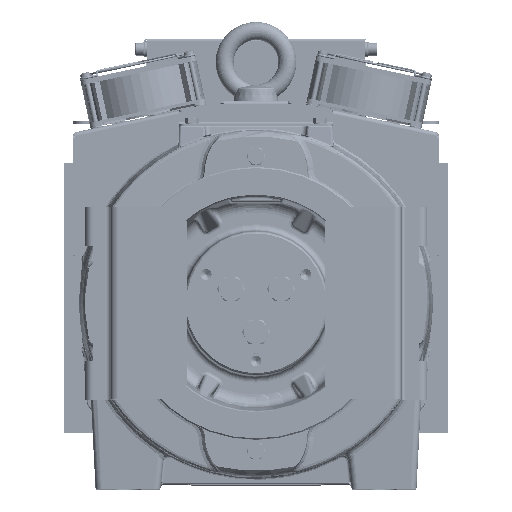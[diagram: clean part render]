
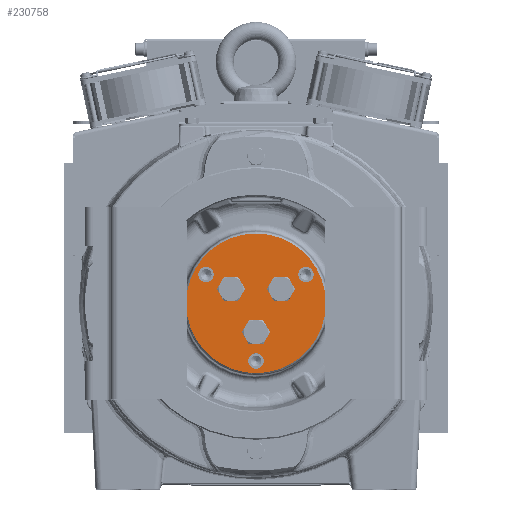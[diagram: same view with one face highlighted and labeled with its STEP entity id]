
A CAD part, top view. The second image highlights one B-rep face of the part: STEP entity #230758.
In plain terms, the highlighted planar face has unit normal (0, 0, 1) as drawn and (0, -1, 0) by its records, which use the part's own axes.
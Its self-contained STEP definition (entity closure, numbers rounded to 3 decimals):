
#230415=CARTESIAN_POINT('',(0.,0.,
0.));
#230416=DIRECTION('',(0.,-1.,0.));
#230417=DIRECTION('',(-1.,0.,0.));
#230418=AXIS2_PLACEMENT_3D('',#230415,#230416,#230417);
#230420=CARTESIAN_POINT('',(0.,0.,
0.));
#230421=DIRECTION('',(0.,-1.,0.));
#230422=DIRECTION('',(1.,0.,0.));
#230423=AXIS2_PLACEMENT_3D('',#230420,#230421,#230422);
#230425=CARTESIAN_POINT('',(0.,0.,-22.5));
#230426=DIRECTION('',(0.,-1.,0.));
#230427=DIRECTION('',(1.,0.,0.));
#230428=AXIS2_PLACEMENT_3D('',#230425,#230426,#230427);
#230430=CARTESIAN_POINT('',(0.,0.,-22.5));
#230431=DIRECTION('',(0.,-1.,0.));
#230432=DIRECTION('',(-1.,0.,0.));
#230433=AXIS2_PLACEMENT_3D('',#230430,#230431,#230432);
#230435=CARTESIAN_POINT('',(19.486,0.,11.25));
#230436=DIRECTION('',(0.,-1.,0.));
#230437=DIRECTION('',(-0.5,0.,0.866));
#230438=AXIS2_PLACEMENT_3D('',#230435,#230436,#230437);
#230440=CARTESIAN_POINT('',(19.486,0.,11.25));
#230441=DIRECTION('',(0.,-1.,0.));
#230442=DIRECTION('',(0.5,0.,-0.866));
#230443=AXIS2_PLACEMENT_3D('',#230440,#230441,#230442);
#230445=CARTESIAN_POINT('',(-19.486,0.,11.25));
#230446=DIRECTION('',(0.,-1.,0.));
#230447=DIRECTION('',(-0.5,0.,-0.866));
#230448=AXIS2_PLACEMENT_3D('',#230445,#230446,#230447);
#230450=CARTESIAN_POINT('',(-19.486,0.,11.25));
#230451=DIRECTION('',(0.,-1.,0.));
#230452=DIRECTION('',(0.5,0.,0.866));
#230453=AXIS2_PLACEMENT_3D('',#230450,#230451,#230452);
#230455=CARTESIAN_POINT('',(0.,0.,-45.));
#230456=DIRECTION('',(0.,-1.,0.));
#230457=DIRECTION('',(1.,0.,0.));
#230458=AXIS2_PLACEMENT_3D('',#230455,#230456,#230457);
#230460=CARTESIAN_POINT('',(0.,0.,-45.));
#230461=DIRECTION('',(0.,-1.,0.));
#230462=DIRECTION('',(-1.,0.,0.));
#230463=AXIS2_PLACEMENT_3D('',#230460,#230461,#230462);
#230465=CARTESIAN_POINT('',(38.971,0.,22.5));
#230466=DIRECTION('',(0.,-1.,0.));
#230467=DIRECTION('',(-0.5,0.,0.866));
#230468=AXIS2_PLACEMENT_3D('',#230465,#230466,#230467);
#230470=CARTESIAN_POINT('',(38.971,0.,22.5));
#230471=DIRECTION('',(0.,-1.,0.));
#230472=DIRECTION('',(0.5,0.,-0.866));
#230473=AXIS2_PLACEMENT_3D('',#230470,#230471,#230472);
#230475=CARTESIAN_POINT('',(-38.971,0.,22.5));
#230476=DIRECTION('',(0.,-1.,0.));
#230477=DIRECTION('',(-0.5,0.,-0.866));
#230478=AXIS2_PLACEMENT_3D('',#230475,#230476,#230477);
#230480=CARTESIAN_POINT('',(-38.971,0.,22.5));
#230481=DIRECTION('',(0.,-1.,0.));
#230482=DIRECTION('',(0.5,0.,0.866));
#230483=AXIS2_PLACEMENT_3D('',#230480,#230481,#230482);
#230659=CARTESIAN_POINT('',(6.5,0.,-22.5));
#230660=CARTESIAN_POINT('',(-6.5,0.,-22.5));
#230661=VERTEX_POINT('',#230659);
#230662=VERTEX_POINT('',#230660);
#230667=CARTESIAN_POINT('',(16.236,0.,16.879));
#230668=CARTESIAN_POINT('',(22.736,0.,5.621));
#230669=VERTEX_POINT('',#230667);
#230670=VERTEX_POINT('',#230668);
#230675=CARTESIAN_POINT('',(-22.736,0.,5.621));
#230676=CARTESIAN_POINT('',(-16.236,0.,16.879));
#230677=VERTEX_POINT('',#230675);
#230678=VERTEX_POINT('',#230676);
#230683=CARTESIAN_POINT('',(6.,0.,-45.));
#230684=CARTESIAN_POINT('',(-6.,0.,-45.));
#230685=VERTEX_POINT('',#230683);
#230686=VERTEX_POINT('',#230684);
#230691=CARTESIAN_POINT('',(35.971,0.,27.696));
#230692=CARTESIAN_POINT('',(41.971,0.,17.304));
#230693=VERTEX_POINT('',#230691);
#230694=VERTEX_POINT('',#230692);
#230699=CARTESIAN_POINT('',(-41.971,0.,17.304));
#230700=CARTESIAN_POINT('',(-35.971,0.,27.696));
#230701=VERTEX_POINT('',#230699);
#230702=VERTEX_POINT('',#230700);
#230707=CARTESIAN_POINT('',(-54.5,0.,0.));
#230708=CARTESIAN_POINT('',(54.5,0.,0.));
#230709=VERTEX_POINT('',#230707);
#230710=VERTEX_POINT('',#230708);
#230711=CARTESIAN_POINT('',(0.,0.,0.));
#230712=DIRECTION('',(0.,-1.,0.));
#230713=DIRECTION('',(-1.,0.,0.));
#230714=AXIS2_PLACEMENT_3D('',#230711,#230712,#230713);
#230715=PLANE('',#230714);
#230717=ORIENTED_EDGE('',*,*,#230716,.F.);
#230719=ORIENTED_EDGE('',*,*,#230718,.F.);
#230720=EDGE_LOOP('',(#230717,#230719));
#230721=FACE_OUTER_BOUND('',#230720,.F.);
#230723=ORIENTED_EDGE('',*,*,#230722,.T.);
#230725=ORIENTED_EDGE('',*,*,#230724,.T.);
#230726=EDGE_LOOP('',(#230723,#230725));
#230727=FACE_BOUND('',#230726,.F.);
#230729=ORIENTED_EDGE('',*,*,#230728,.T.);
#230731=ORIENTED_EDGE('',*,*,#230730,.T.);
#230732=EDGE_LOOP('',(#230729,#230731));
#230733=FACE_BOUND('',#230732,.F.);
#230735=ORIENTED_EDGE('',*,*,#230734,.T.);
#230737=ORIENTED_EDGE('',*,*,#230736,.T.);
#230738=EDGE_LOOP('',(#230735,#230737));
#230739=FACE_BOUND('',#230738,.F.);
#230741=ORIENTED_EDGE('',*,*,#230740,.T.);
#230743=ORIENTED_EDGE('',*,*,#230742,.T.);
#230744=EDGE_LOOP('',(#230741,#230743));
#230745=FACE_BOUND('',#230744,.F.);
#230747=ORIENTED_EDGE('',*,*,#230746,.T.);
#230749=ORIENTED_EDGE('',*,*,#230748,.T.);
#230750=EDGE_LOOP('',(#230747,#230749));
#230751=FACE_BOUND('',#230750,.F.);
#230753=ORIENTED_EDGE('',*,*,#230752,.T.);
#230755=ORIENTED_EDGE('',*,*,#230754,.T.);
#230756=EDGE_LOOP('',(#230753,#230755));
#230757=FACE_BOUND('',#230756,.F.);
#230758=ADVANCED_FACE('',(#230721,#230727,#230733,#230739,#230745,#230751,
#230757),#230715,.T.);
#230419=CIRCLE('',#230418,54.5);
#230424=CIRCLE('',#230423,54.5);
#230429=CIRCLE('',#230428,6.5);
#230434=CIRCLE('',#230433,6.5);
#230439=CIRCLE('',#230438,6.5);
#230444=CIRCLE('',#230443,6.5);
#230449=CIRCLE('',#230448,6.5);
#230454=CIRCLE('',#230453,6.5);
#230459=CIRCLE('',#230458,6.);
#230464=CIRCLE('',#230463,6.);
#230469=CIRCLE('',#230468,6.);
#230474=CIRCLE('',#230473,6.);
#230479=CIRCLE('',#230478,6.);
#230484=CIRCLE('',#230483,6.);
#230716=EDGE_CURVE('',#230709,#230710,#230419,.T.);
#230718=EDGE_CURVE('',#230710,#230709,#230424,.T.);
#230722=EDGE_CURVE('',#230661,#230662,#230429,.T.);
#230724=EDGE_CURVE('',#230662,#230661,#230434,.T.);
#230728=EDGE_CURVE('',#230669,#230670,#230439,.T.);
#230730=EDGE_CURVE('',#230670,#230669,#230444,.T.);
#230734=EDGE_CURVE('',#230677,#230678,#230449,.T.);
#230736=EDGE_CURVE('',#230678,#230677,#230454,.T.);
#230740=EDGE_CURVE('',#230685,#230686,#230459,.T.);
#230742=EDGE_CURVE('',#230686,#230685,#230464,.T.);
#230746=EDGE_CURVE('',#230693,#230694,#230469,.T.);
#230748=EDGE_CURVE('',#230694,#230693,#230474,.T.);
#230752=EDGE_CURVE('',#230701,#230702,#230479,.T.);
#230754=EDGE_CURVE('',#230702,#230701,#230484,.T.);
